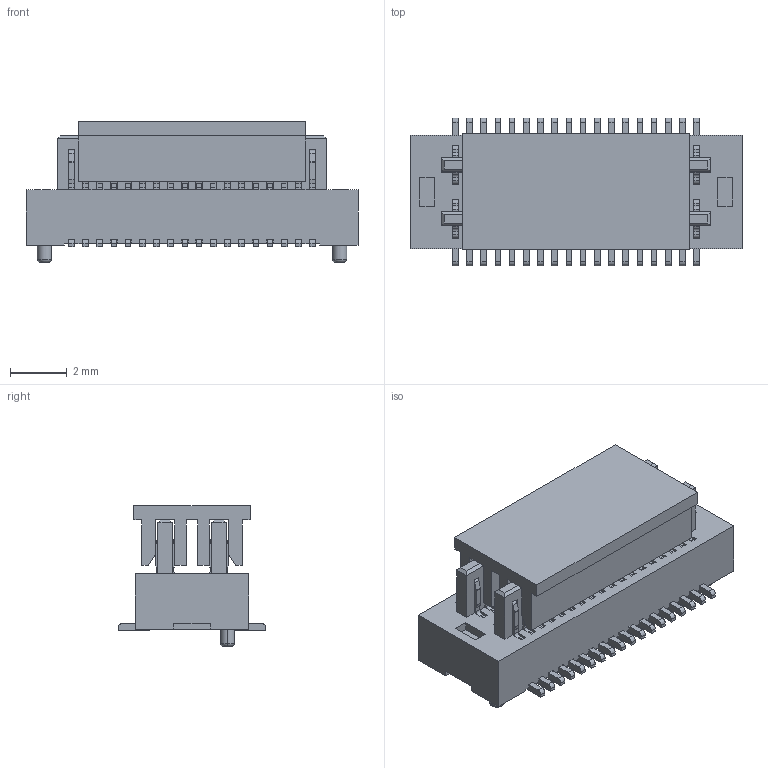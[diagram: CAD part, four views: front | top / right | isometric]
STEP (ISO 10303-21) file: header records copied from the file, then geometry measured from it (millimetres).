
FILE_DESCRIPTION(('CATIA V5 STEP Exchange'),'2;1');
FILE_NAME('F:\黄富鸿\板对板\PBB05\公座\H2.0\编带+盖\HC-PBB05-2-36-M-H2.0-G1-R-P-04（BTB0.5 双槽 公座 立贴 带柱 编带+盖）-HCTL.stp','2025-12-18T02:54:53+00:00',('none'),('none'),'CATIA Version 5 Release 20 GA (IN-10)','CATIA V5 STEP AP203','none');
FILE_SCHEMA(('CONFIG_CONTROL_DESIGN'));
Products named in the file (1): Part2
Bounding box: 11.7 x 5.2 x 4.95 mm (x, y, z)
Volume: 144.7 mm3; surface area: 987 mm2
Topology: 38 solids, 38 shells, 2096 faces, 6390 edges, 4232 vertices
Faces by surface type: plane 1368, cylinder 724, torus 4
Entity records: 61547 total; most frequent: ORIENTED_EDGE 12780, CARTESIAN_POINT 11412, DIRECTION 6960, EDGE_CURVE 6390, VECTOR 4790, LINE 4790, VERTEX_POINT 4232, EDGE_LOOP 2102
